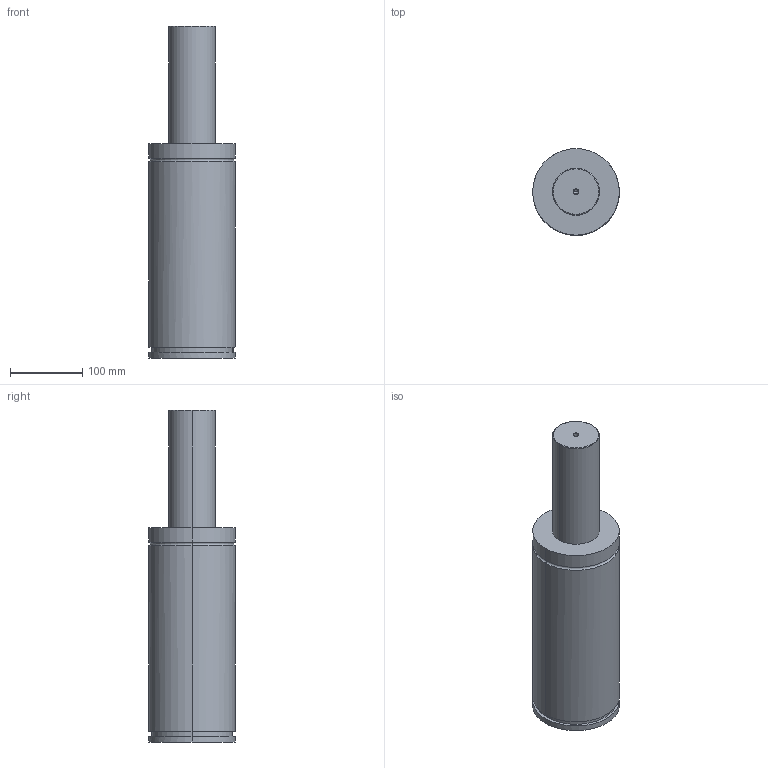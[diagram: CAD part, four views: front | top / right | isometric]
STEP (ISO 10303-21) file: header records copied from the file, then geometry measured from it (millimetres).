
FILE_DESCRIPTION(/* description */ (''),/* implementation_level */ '2;1');
FILE_NAME(/* name */ '3d_gse120-160_03864_r00.stp',/* time_stamp */ '2011-01-10T14:15:20+09:00',/* author */ ('MISUMI'),/* organization */ (''),/* preprocessor_version */ 'ST-DEVELOPER v11',/* originating_system */ 'UGS - NX 5.0',/* authorisation */ '');
FILE_SCHEMA (('CONFIG_CONTROL_DESIGN'));
Length unit declared in the file: millimetre
Products named in the file (1): 3d_gse120-160_03864_r00
Bounding box: 120 x 120 x 460 mm (x, y, z)
Volume: 3878403.9 mm3; surface area: 174807.9 mm2
Topology: 1 solids, 1 shells, 75 faces, 161 edges, 103 vertices
Faces by surface type: cylinder 34, plane 27, cone 10, torus 4
Entity records: 2145 total; most frequent: DIRECTION 393, CARTESIAN_POINT 360, ORIENTED_EDGE 318, AXIS2_PLACEMENT_3D 164, EDGE_CURVE 159, VERTEX_POINT 103, EDGE_LOOP 92, CIRCLE 88
